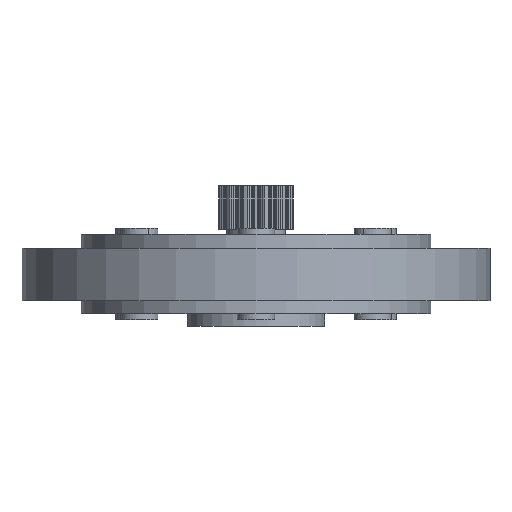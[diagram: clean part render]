
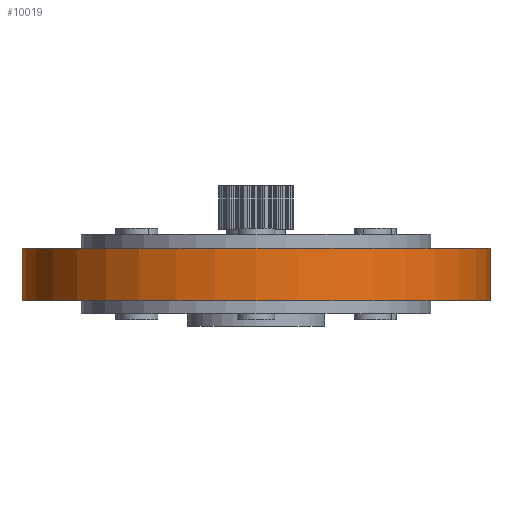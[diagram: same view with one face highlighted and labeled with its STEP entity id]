
A CAD part, front view. The second image highlights one B-rep face of the part: STEP entity #10019.
In plain terms, the highlighted cylindrical face has radius 37.5 mm (diameter 75 mm), a partial arc.
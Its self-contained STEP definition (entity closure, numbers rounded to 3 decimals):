
#116 = LINE ( 'NONE', #4401, #6984 ) ;
#422 = ORIENTED_EDGE ( 'NONE', *, *, #10687, .T. ) ;
#631 = LINE ( 'NONE', #4987, #12355 ) ;
#643 = AXIS2_PLACEMENT_3D ( 'NONE', #13089, #7659, #9408 ) ;
#867 = VERTEX_POINT ( 'NONE', #5661 ) ;
#1726 = ORIENTED_EDGE ( 'NONE', *, *, #13693, .F. ) ;
#3026 = CARTESIAN_POINT ( 'NONE',  ( 37.5, 0., 4.2 ) ) ;
#3252 = EDGE_CURVE ( 'NONE', #4765, #10726, #11538, .T. ) ;
#3778 = DIRECTION ( 'NONE',  ( 0., 0., -1. ) ) ;
#4125 = CARTESIAN_POINT ( 'NONE',  ( 37.5, 0., -4.2 ) ) ;
#4344 = DIRECTION ( 'NONE',  ( 0., 0., 1. ) ) ;
#4401 = CARTESIAN_POINT ( 'NONE',  ( 37.5, 0., 4.2 ) ) ;
#4765 = VERTEX_POINT ( 'NONE', #9149 ) ;
#4987 = CARTESIAN_POINT ( 'NONE',  ( -37.5, 0., 4.2 ) ) ;
#4996 = CIRCLE ( 'NONE', #10941, 37.5 ) ;
#5661 = CARTESIAN_POINT ( 'NONE',  ( -37.5, 0., 4.2 ) ) ;
#5815 = DIRECTION ( 'NONE',  ( 1., 0., 0. ) ) ;
#6427 = CARTESIAN_POINT ( 'NONE',  ( 0., 0., -4.2 ) ) ;
#6740 = ORIENTED_EDGE ( 'NONE', *, *, #9323, .F. ) ;
#6825 = CARTESIAN_POINT ( 'NONE',  ( 0., 0., 4.2 ) ) ;
#6984 = VECTOR ( 'NONE', #12001, 1000. ) ;
#7659 = DIRECTION ( 'NONE',  ( 0., 0., -1. ) ) ;
#7802 = VERTEX_POINT ( 'NONE', #3026 ) ;
#8722 = FACE_OUTER_BOUND ( 'NONE', #10376, .T. ) ;
#9149 = CARTESIAN_POINT ( 'NONE',  ( -37.5, 0., -4.2 ) ) ;
#9323 = EDGE_CURVE ( 'NONE', #867, #7802, #4996, .T. ) ;
#9408 = DIRECTION ( 'NONE',  ( -1., 0., 0. ) ) ;
#10019 = ADVANCED_FACE ( 'NONE', ( #8722 ), #10656, .T. ) ;
#10376 = EDGE_LOOP ( 'NONE', ( #1726, #6740, #422, #10548 ) ) ;
#10548 = ORIENTED_EDGE ( 'NONE', *, *, #3252, .T. ) ;
#10656 = CYLINDRICAL_SURFACE ( 'NONE', #643, 37.5 ) ;
#10687 = EDGE_CURVE ( 'NONE', #867, #4765, #631, .T. ) ;
#10726 = VERTEX_POINT ( 'NONE', #4125 ) ;
#10858 = DIRECTION ( 'NONE',  ( 1., 0., 0. ) ) ;
#10941 = AXIS2_PLACEMENT_3D ( 'NONE', #6825, #12188, #5815 ) ;
#11538 = CIRCLE ( 'NONE', #13364, 37.5 ) ;
#12001 = DIRECTION ( 'NONE',  ( 0., 0., -1. ) ) ;
#12188 = DIRECTION ( 'NONE',  ( 0., 0., 1. ) ) ;
#12355 = VECTOR ( 'NONE', #3778, 1000. ) ;
#13089 = CARTESIAN_POINT ( 'NONE',  ( 0., 0., 4.2 ) ) ;
#13364 = AXIS2_PLACEMENT_3D ( 'NONE', #6427, #4344, #10858 ) ;
#13693 = EDGE_CURVE ( 'NONE', #7802, #10726, #116, .T. ) ;
